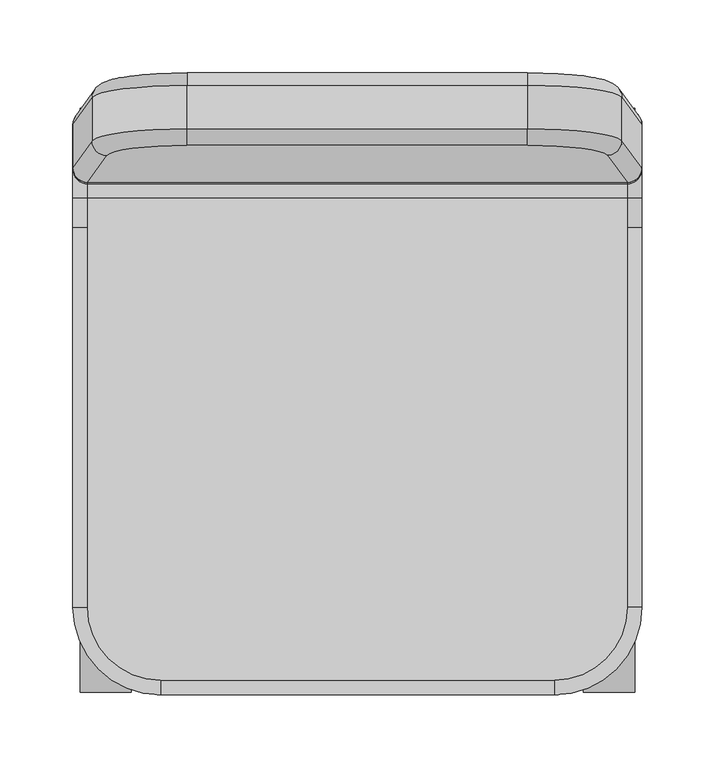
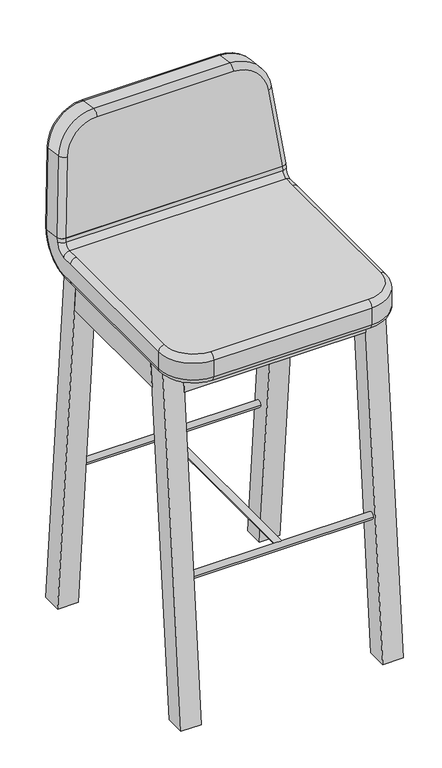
"""IFC4 building model written with IfcOpenShell, lengths in millimetres: furniture geometry, A Slim+back rest_H865-SH663 : A Slim+back rest_H865-SH663."""

from ifc_helpers import new_model, si_unit, point, frame, frame_2d, origin, place, context, project, spatial, polyline, circle_curve, ellipse_curve, trimmed, segment, composite_curve, outline, extrude, faceted_brep, source, transform, mapped, element, save
from ifc_brep_helpers import plane_surface, cylinder_surface, revolved_surface, advanced_brep


def furniture_0df47b9a(model_context):
    return source(origin(), model_context, "Body", "SolidModel", [
        advanced_brep(
        [(-184.9532174, 176.0, 679.0), (184.947486, 176.0, 679.0), (171.3421981, 194.4518922, 810.2920353), (116.593876, 201.3295044, 859.2287885), (-116.7908163, 201.3295044, 859.2287885), (-171.8943974, 194.3814283, 809.7906586), (184.947486, 225.5134034, 672.041345), (-184.9532174, 225.5134034, 672.041345), (-171.8943974, 243.8948318, 802.8320036), (-116.7908163, 250.8429078, 852.2701335), (116.593876, 250.8429078, 852.2701335), (171.3421981, 243.9652957, 803.3333802), (-116.7908163, 212.6239161, 867.7397382), (116.593876, 212.6239161, 867.7397382), (116.593876, 242.3319581, 863.5645452), (-116.7908163, 242.3319581, 863.5645452), (-195.0019784, 185.9026807, 677.608269), (-195.0019784, 215.6107227, 673.433076), (195.0, 215.6107227, 673.433076), (195.0, 185.9026807, 677.608269), (-181.8458731, 204.4210466, 809.3732894), (-181.8458731, 234.1290887, 805.1980964), (181.2899584, 204.496643, 809.9111857), (181.2899584, 234.2046851, 805.7359927)],
        [
            (0, 1),
            (1, 2),
            (2, 3, circle_curve(frame((116.593876, 193.6699976, 804.7285657), z_axis=(0.0, -0.9902680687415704, 0.13917310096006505), x_axis=(0.9947760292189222, 0.014207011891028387, 0.1010881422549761)), 55.0358277)),
            (3, 4),
            (4, 5, circle_curve(frame((-116.7908163, 193.6231736, 804.3953961), z_axis=(0.0, -0.9902680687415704, 0.13917310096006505), x_axis=(0.0, 0.13917310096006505, 0.9902680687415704)), 55.3722716)),
            (5, 0),
            (6, 7),
            (7, 8),
            (8, 9, circle_curve(frame((-116.7908163, 243.1365771, 797.436741), z_axis=(0.0, 0.9902680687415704, -0.13917310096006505), x_axis=(-0.9951475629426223, 0.013693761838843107, 0.09743617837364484)), 55.3722716)),
            (9, 10),
            (10, 11, circle_curve(frame((116.593876, 243.183401, 797.7699107), z_axis=(0.0, 0.9902680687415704, -0.13917310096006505), x_axis=(0.0, 0.13917310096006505, 0.9902680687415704)), 55.0358277)),
            (11, 6),
            (12, 13),
            (13, 14),
            (14, 15),
            (15, 12),
            (0, 16, ellipse_curve(frame((-184.9532174, 185.9026807, 677.608269), z_axis=(0.0, -0.13917310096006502, -0.9902680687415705), x_axis=(-1.0, 0.0, 0.0)), 10.048761, 10.0)),
            (16, 17),
            (17, 7, ellipse_curve(frame((-184.9532174, 215.6107227, 673.433076), z_axis=(0.0, -0.13917310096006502, -0.9902680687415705), x_axis=(1.0, 0.0, 0.0)), 10.048761, 10.0)),
            (6, 18, ellipse_curve(frame((184.947486, 215.6107227, 673.433076), z_axis=(0.0, -0.13917310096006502, -0.9902680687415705), x_axis=(1.0, 0.0, 0.0)), 10.052514, 10.0)),
            (18, 19),
            (19, 1, ellipse_curve(frame((184.947486, 185.9026807, 677.608269), z_axis=(0.0, -0.13917310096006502, -0.9902680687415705), x_axis=(-1.0, 0.0, 0.0)), 10.052514, 10.0)),
            (16, 20),
            (20, 21),
            (21, 17),
            (22, 19),
            (18, 23),
            (23, 22),
            (20, 12, circle_curve(frame((-116.7908163, 203.5258543, 803.0036651), z_axis=(0.0, 0.9902680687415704, -0.13917310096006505), x_axis=(1.0, 0.0, 0.0)), 65.3722716)),
            (15, 21, circle_curve(frame((-116.7908163, 233.2338964, 798.8284721), z_axis=(0.0, -0.9902680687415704, 0.13917310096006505), x_axis=(1.0, 0.0, 0.0)), 65.3722716)),
            (13, 22, circle_curve(frame((116.593876, 203.5726783, 803.3368347), z_axis=(0.0, 0.9902680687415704, -0.13917310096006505), x_axis=(1.0, 0.0, 0.0)), 65.0358277)),
            (23, 14, circle_curve(frame((116.593876, 233.2807203, 799.1616417), z_axis=(0.0, -0.9902680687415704, 0.13917310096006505), x_axis=(1.0, 0.0, 0.0)), 65.0358277)),
            (22, 2, circle_curve(frame((171.3421981, 204.3545729, 808.9003043), z_axis=(0.10208159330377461, -0.13844606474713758, -0.9850949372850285), x_axis=(-0.9947760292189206, -0.014207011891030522, -0.1010881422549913)), 10.0)),
            (13, 3, circle_curve(frame((116.593876, 211.2321851, 857.8370575), z_axis=(1.0, 0.0, 0.0), x_axis=(0.0, -0.13917310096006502, -0.9902680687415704)), 10.0)),
            (12, 4, circle_curve(frame((-116.7908163, 211.2321851, 857.8370575), z_axis=(1.0, 0.0, 0.0), x_axis=(0.0, -0.13917310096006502, -0.9902680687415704)), 10.0)),
            (20, 5, circle_curve(frame((-171.8943974, 204.284109, 808.3989276), z_axis=(0.09839373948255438, 0.13849777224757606, 0.9854628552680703), x_axis=(0.9951475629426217, -0.013693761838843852, -0.09743617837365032)), 10.0)),
            (21, 8, circle_curve(frame((-171.8943974, 233.9921511, 804.2237346), z_axis=(-0.09839373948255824, -0.1384977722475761, -0.9854628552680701), x_axis=(0.9951475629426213, -0.013693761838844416, -0.09743617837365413)), 10.0)),
            (15, 9, circle_curve(frame((-116.7908163, 240.9402271, 853.6618645), z_axis=(-1.0, 0.0, 0.0), x_axis=(0.0, -0.13917310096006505, -0.9902680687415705)), 10.0)),
            (14, 10, circle_curve(frame((116.593876, 240.9402271, 853.6618645), z_axis=(-1.0, 0.0, 0.0), x_axis=(0.0, -0.13917310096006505, -0.9902680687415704)), 10.0)),
            (23, 11, circle_curve(frame((171.3421981, 234.062615, 804.7251112), z_axis=(-0.10208159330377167, 0.13844606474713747, 0.9850949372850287), x_axis=(-0.9947760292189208, -0.014207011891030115, -0.1010881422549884)), 10.0)),
        ],
        [
            plane_surface(frame((-116.7908163, 202.7212354, 869.1314692), z_axis=(0.0, -0.9902680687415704, 0.13917310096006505), x_axis=(-1.0, 0.0, 0.0))),
            plane_surface(frame((-116.7908163, 252.2346388, 862.1728142), z_axis=(0.0, 0.9902680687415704, -0.13917310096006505), x_axis=(1.0, 0.0, 0.0))),
            plane_surface(frame((116.593876, 202.7212354, 869.1314692), z_axis=(0.0, 0.13917310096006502, 0.9902680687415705), x_axis=(0.0, 0.9902680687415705, -0.13917310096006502))),
            plane_surface(frame((-195.0019784, 176.0, 679.0), z_axis=(0.0, -0.13917310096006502, -0.9902680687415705), x_axis=(0.0, 0.9902680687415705, -0.13917310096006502))),
            plane_surface(frame((-181.8458731, 194.518366, 810.7650204), z_axis=(-0.9951475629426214, 0.013693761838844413, 0.09743617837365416), x_axis=(0.0, 0.9902680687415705, -0.13917310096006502))),
            plane_surface(frame((195.0, 176.0, 679.0), z_axis=(0.9947760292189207, 0.01420701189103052, 0.10108814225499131), x_axis=(0.0, 0.9902680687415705, -0.13917310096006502))),
            cylinder_surface(frame((-116.7908163, 243.1365771, 797.436741), z_axis=(0.0, -0.9902680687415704, 0.13917310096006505), x_axis=(1.0, 0.0, 0.0)), 65.3722716),
            cylinder_surface(frame((116.593876, 243.183401, 797.7699107), z_axis=(0.0, -0.9902680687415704, 0.13917310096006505), x_axis=(1.0, 0.0, 0.0)), 65.0358277),
            cylinder_surface(frame((185.0522397, 185.7606106, 676.5973876), z_axis=(-0.10208159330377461, 0.13844606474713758, 0.9850949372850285), x_axis=(-0.9947760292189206, -0.014207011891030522, -0.1010881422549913)), 10.0),
            revolved_surface(trimmed(ellipse_curve(frame((171.3421981, 204.3545729, 808.9003043), z_axis=(0.10208159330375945, -0.1384460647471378, -0.9850949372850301), x_axis=(-0.9947760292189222, -0.014207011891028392, -0.1010881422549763)), 10.0, 10.0), [point((181.2899584, 204.496643, 809.9111857))], [point((171.3421981, 194.4518922, 810.2920353))], True, "CARTESIAN"), (116.593876, 193.6699976, 804.7285657), (0.0, -0.9902680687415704, 0.13917310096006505)),
            cylinder_surface(frame((116.593876, 211.2321851, 857.8370575), z_axis=(-1.0, 0.0, 0.0), x_axis=(0.0, -0.13917310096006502, -0.9902680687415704)), 10.0),
            revolved_surface(trimmed(ellipse_curve(frame((-116.7908163, 211.2321851, 857.8370575), z_axis=(1.0, 0.0, 0.0), x_axis=(0.0, -0.13917310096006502, -0.9902680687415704)), 10.0, 10.0), [point((-116.7908163, 212.6239161, 867.7397382))], [point((-116.7908163, 201.3295044, 859.2287885))], True, "CARTESIAN"), (-116.7908163, 193.6231736, 804.3953961), (0.0, -0.9902680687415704, 0.13917310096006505)),
            cylinder_surface(frame((-171.8943974, 204.284109, 808.3989276), z_axis=(-0.09839373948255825, -0.138497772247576, -0.9854628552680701), x_axis=(0.9951475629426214, -0.013693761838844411, -0.09743617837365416)), 10.0),
            cylinder_surface(frame((-185.0505027, 215.4737851, 672.4587142), z_axis=(0.09839373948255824, 0.1384977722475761, 0.9854628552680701), x_axis=(0.9951475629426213, -0.013693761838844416, -0.09743617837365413)), 10.0),
            revolved_surface(trimmed(ellipse_curve(frame((-171.8943974, 233.9921511, 804.2237346), z_axis=(-0.09839373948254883, -0.13849777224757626, -0.9854628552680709), x_axis=(0.9951475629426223, -0.01369376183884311, -0.09743617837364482)), 10.0, 10.0), [point((-181.8458731, 234.1290887, 805.1980964))], [point((-171.8943974, 243.8948318, 802.8320036))], True, "CARTESIAN"), (-116.7908163, 243.1365771, 797.436741), (0.0, 0.9902680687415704, -0.13917310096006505)),
            cylinder_surface(frame((-116.7908163, 240.9402271, 853.6618645), z_axis=(1.0, 0.0, 0.0), x_axis=(0.0, -0.13917310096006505, -0.9902680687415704)), 10.0),
            revolved_surface(trimmed(ellipse_curve(frame((116.593876, 240.9402271, 853.6618645), z_axis=(-1.0, 0.0, 0.0), x_axis=(0.0, -0.13917310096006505, -0.9902680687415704)), 10.0, 10.0), [point((116.593876, 242.3319581, 863.5645452))], [point((116.593876, 250.8429078, 852.2701335))], True, "CARTESIAN"), (116.593876, 243.183401, 797.7699107), (0.0, 0.9902680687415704, -0.13917310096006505)),
            cylinder_surface(frame((171.3421981, 234.062615, 804.7251112), z_axis=(0.1020815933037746, -0.13844606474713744, -0.9850949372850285), x_axis=(-0.9947760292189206, -0.014207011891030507, -0.1010881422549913)), 10.0),
        ],
        [
            (0, [[1, 2, 3, 4, 5, 6]]),
            (1, [[7, 8, 9, 10, 11, 12]]),
            (2, [[13, 14, 15, 16]]),
            (3, [[-1, 17, 18, 19, -7, 20, 21, 22]]),
            (4, [[23, 24, 25, -18]]),
            (5, [[26, -21, 27, 28]]),
            (6, [[29, -16, 30, -24]]),
            (7, [[31, -28, 32, -14]]),
            (8, [[33, -2, -22, -26]]),
            (9, [[-33, -31, 34, -3]]),
            (10, [[-34, -13, 35, -4]]),
            (11, [[-35, -29, 36, -5]]),
            (12, [[-36, -23, -17, -6]]),
            (13, [[37, -8, -19, -25]]),
            (14, [[-37, -30, 38, -9]]),
            (15, [[-38, -15, 39, -10]]),
            (16, [[-39, -32, 40, -11]]),
            (17, [[-40, -27, -20, -12]]),
        ],
    ),
        faceted_brep([(190.0, 141.8861338, 571.0), (190.0, 138.2, 613.0), (190.0, -84.2, 613.0), (190.0, -87.8861338, 571.0), (155.0, 141.8861338, 571.0), (155.0, -87.8861338, 571.0), (155.0, -84.2, 613.0), (155.0, 138.2, 613.0), (155.0, 121.0, 585.5), (155.0, 121.0, 598.5), (155.0, -66.0, 598.5), (155.0, -66.0, 585.5), (165.0, 121.0, 585.5), (165.0, 121.0, 598.5), (165.0, -66.0, 598.5), (165.0, -66.0, 585.5)], [[[0, 1, 2, 3]], [[4, 5, 6, 7], [8, 9, 10, 11]], [[1, 0, 4, 7]], [[2, 1, 7, 6]], [[3, 2, 6, 5]], [[0, 3, 5, 4]], [[12, 13, 9, 8]], [[14, 15, 11, 10]], [[15, 12, 8, 11]], [[13, 14, 10, 9]], [[13, 12, 15, 14]]]),
        faceted_brep([(155.0, 176.8861338, 571.0), (155.0, 173.2, 613.0), (155.0, 138.2, 613.0), (155.0, 141.8861338, 571.0), (-155.0, 176.8861338, 571.0), (-155.0, 141.8861338, 571.0), (-155.0, 138.2, 613.0), (-155.0, 173.2, 613.0), (135.0, 140.61354, 585.5), (-135.0, 140.61354, 585.5), (-135.0, 139.4725938, 598.5), (135.0, 139.4725938, 598.5), (-135.0, 151.1918818, 585.5), (135.0, 151.1918818, 585.5), (135.0, 151.1918818, 598.5), (-135.0, 151.1918818, 598.5)], [[[0, 1, 2, 3]], [[4, 5, 6, 7]], [[0, 3, 5, 4]], [[3, 2, 6, 5], [8, 9, 10, 11]], [[2, 1, 7, 6]], [[1, 0, 4, 7]], [[12, 13, 14, 15]], [[13, 12, 9, 8]], [[14, 13, 8, 11]], [[15, 14, 11, 10]], [[12, 15, 10, 9]]]),
        faceted_brep([(-190.0, 141.8861338, 571.0), (-190.0, -87.8861338, 571.0), (-190.0, -84.2, 613.0), (-190.0, 138.2, 613.0), (-155.0, 141.8861338, 571.0), (-155.0, 138.2, 613.0), (-155.0, -84.2, 613.0), (-155.0, -87.8861338, 571.0), (-155.0, 121.0, 598.5), (-155.0, 121.0, 585.5), (-155.0, -66.0, 585.5), (-155.0, -66.0, 598.5), (-165.0, 121.0, 598.5), (-165.0, 121.0, 585.5), (-165.0, -66.0, 585.5), (-165.0, -66.0, 598.5)], [[[0, 1, 2, 3]], [[4, 5, 6, 7], [8, 9, 10, 11]], [[0, 3, 5, 4]], [[3, 2, 6, 5]], [[2, 1, 7, 6]], [[1, 0, 4, 7]], [[12, 13, 9, 8]], [[14, 15, 11, 10]], [[13, 14, 10, 9]], [[15, 12, 8, 11]], [[13, 12, 15, 14]]]),
        faceted_brep([(155.0, -122.8741463, 571.0), (155.0, -87.8741463, 571.0), (155.0, -84.2, 613.0), (155.0, -119.2, 613.0), (-155.0, -122.8741463, 571.0), (-155.0, -119.2, 613.0), (-155.0, -84.2, 613.0), (-155.0, -87.8741463, 571.0), (-135.0, -86.6056911, 585.5), (135.0, -86.6056911, 585.5), (135.0, -85.4684553, 598.5), (-135.0, -85.4684553, 598.5), (-135.0, -96.8081182, 585.5), (-135.0, -96.8081182, 598.5), (135.0, -96.8081182, 598.5), (135.0, -96.8081182, 585.5)], [[[0, 1, 2, 3]], [[4, 5, 6, 7]], [[1, 0, 4, 7]], [[2, 1, 7, 6], [8, 9, 10, 11]], [[3, 2, 6, 5]], [[0, 3, 5, 4]], [[12, 13, 14, 15]], [[12, 15, 9, 8]], [[15, 14, 10, 9]], [[14, 13, 11, 10]], [[13, 12, 8, 11]]]),
        extrude(outline(composite_curve([segment(trimmed(circle_curve(frame_2d((-139.8410377, 250.0)), 6.0), [point((-133.8410377, 250.0))], [point((-145.8410377, 250.0))], False, "CARTESIAN"), True, "CONTINUOUS"), segment(trimmed(circle_curve(frame_2d((-139.8410377, 250.0)), 6.0), [point((-145.8410377, 250.0))], [point((-133.8410377, 250.0))], False, "CARTESIAN"), True, "CONTINUOUS")], self_intersect=False)), frame((-155.0, 0.0, 0.0), z_axis=(1.0, 0.0, 0.0), x_axis=(0.0, 1.0, 0.0)), (0.0, 0.0, 1.0), 310.0),
        extrude(outline(composite_curve([segment(trimmed(circle_curve(frame_2d((193.8410377, 250.0)), 6.0), [point((187.8410377, 250.0))], [point((199.8410377, 250.0))], False, "CARTESIAN"), True, "CONTINUOUS"), segment(trimmed(circle_curve(frame_2d((193.8410377, 250.0)), 6.0), [point((199.8410377, 250.0))], [point((187.8410377, 250.0))], False, "CARTESIAN"), True, "CONTINUOUS")], self_intersect=False)), frame((-155.0, 0.0, 0.0), z_axis=(1.0, 0.0, 0.0), x_axis=(0.0, 1.0, 0.0)), (0.0, 0.0, 1.0), 310.0),
        extrude(outline(composite_curve([segment(trimmed(circle_curve(frame_2d((250.0, 0.0)), 6.0), [point((250.0, -6.0))], [point((250.0, 6.0))], False, "CARTESIAN"), True, "CONTINUOUS"), segment(trimmed(circle_curve(frame_2d((250.0, 0.0)), 6.0), [point((250.0, 6.0))], [point((250.0, -6.0))], False, "CARTESIAN"), True, "CONTINUOUS")], self_intersect=False)), frame((0.0, -138.8, 0.0), z_axis=(0.0, 1.0, 0.0), x_axis=(0.0, 0.0, 1.0)), (0.0, 0.0, 1.0), 332.0),
        extrude(outline(polyline([(-138.0, 0.0), (-173.0, 0.0), (-119.2, 613.0), (-84.2, 613.0), (-138.0, 0.0)])), frame((-190.0, 0.0, 0.0), z_axis=(1.0, 0.0, 0.0), x_axis=(0.0, 1.0, 0.0)), (0.0, 0.0, 1.0), 35.0),
        extrude(outline(polyline([(227.0, 0.0), (192.0, 0.0), (138.2, 613.0), (173.2, 613.0), (227.0, 0.0)])), frame((-190.0, 0.0, 0.0), z_axis=(1.0, 0.0, 0.0), x_axis=(0.0, 1.0, 0.0)), (0.0, 0.0, 1.0), 35.0),
        extrude(outline(polyline([(227.0, 0.0), (192.0, 0.0), (138.2, 613.0), (173.2, 613.0), (227.0, 0.0)])), frame((155.0, 0.0, 0.0), z_axis=(1.0, 0.0, 0.0), x_axis=(0.0, 1.0, 0.0)), (0.0, 0.0, 1.0), 35.0),
        extrude(outline(polyline([(-138.0, 0.0), (-173.0, 0.0), (-119.2, 613.0), (-84.2, 613.0), (-138.0, 0.0)])), frame((155.0, 0.0, 0.0), z_axis=(1.0, 0.0, 0.0), x_axis=(0.0, 1.0, 0.0)), (0.0, 0.0, 1.0), 35.0),
        advanced_brep(
        [(-185.0, 145.0, 663.0), (-185.0, -115.0, 663.0), (-135.0, -165.0, 663.0), (135.0, -165.0, 663.0), (185.0, -115.0, 663.0), (185.0, 145.0, 663.0), (185.0, 165.0, 663.0), (-185.0, 165.0, 663.0), (185.0, 145.0, 613.0), (185.0, -115.0, 613.0), (135.0, -165.0, 613.0), (-135.0, -165.0, 613.0), (-185.0, -115.0, 613.0), (-185.0, 145.0, 613.0), (-185.0, 165.0, 613.0), (185.0, 165.0, 613.0), (-195.0, -115.0, 653.0), (-195.0, 145.0, 653.0), (-195.0, 165.0, 653.0), (-195.0, 184.8053614, 670.216538), (-195.0, 185.849579, 677.6465328), (-195.0, 215.5576211, 673.4713398), (-195.0, 214.5134034, 666.041345), (-195.0, 165.0, 623.0), (-195.0, 145.0, 623.0), (-195.0, -115.0, 623.0), (-135.0, -175.0, 653.0), (-135.0, -175.0, 623.0), (135.0, -175.0, 653.0), (135.0, -175.0, 623.0), (195.0, -115.0, 653.0), (195.0, -115.0, 623.0), (195.0, 145.0, 653.0), (195.0, 145.0, 623.0), (195.0, 165.0, 623.0), (195.0, 214.5134034, 666.041345), (195.0, 215.5576211, 673.4713398), (195.0, 185.849579, 677.6465328), (195.0, 184.8053614, 670.216538), (195.0, 165.0, 653.0), (-185.0, 175.9468984, 679.0382638), (185.0, 175.9468984, 679.0382638), (185.0, 225.4603018, 672.0796088), (-185.0, 225.4603018, 672.0796088), (185.0, 174.9026807, 671.608269), (-185.0, 174.9026807, 671.608269), (-185.0, 224.4160841, 664.6496139), (185.0, 224.4160841, 664.6496139)],
        [
            (0, 1),
            (1, 2, circle_curve(frame((-135.0, -115.0, 663.0), z_axis=(0.0, 0.0, 1.0), x_axis=(-1.0, 0.0, 0.0)), 50.0)),
            (2, 3),
            (3, 4, circle_curve(frame((135.0, -115.0, 663.0), z_axis=(0.0, 0.0, 1.0), x_axis=(0.0, -1.0, 0.0)), 50.0)),
            (4, 5),
            (5, 6),
            (6, 7),
            (7, 0),
            (8, 9),
            (9, 10, circle_curve(frame((135.0, -115.0, 613.0), z_axis=(0.0, 0.0, -1.0), x_axis=(1.0, 0.0, 0.0)), 50.0)),
            (10, 11),
            (11, 12, circle_curve(frame((-135.0, -115.0, 613.0), z_axis=(0.0, 0.0, -1.0), x_axis=(0.0, -1.0, 0.0)), 50.0)),
            (12, 13),
            (13, 14),
            (14, 15),
            (15, 8),
            (16, 17),
            (17, 18),
            (18, 19, circle_curve(frame((-195.0, 165.0, 673.0), z_axis=(1.0, 0.0, 0.0), x_axis=(0.0, 0.0, -1.0)), 20.0)),
            (19, 20),
            (20, 21),
            (21, 22),
            (22, 23, circle_curve(frame((-195.0, 165.0, 673.0), z_axis=(-1.0, 0.0, 0.0), x_axis=(0.0, 0.0, -1.0)), 50.0)),
            (23, 24),
            (24, 25),
            (25, 16),
            (26, 16, circle_curve(frame((-135.0, -115.0, 653.0), z_axis=(0.0, 0.0, -1.0), x_axis=(1.0, 0.0, 0.0)), 60.0)),
            (25, 27, circle_curve(frame((-135.0, -115.0, 623.0), z_axis=(0.0, 0.0, 1.0), x_axis=(1.0, 0.0, 0.0)), 60.0)),
            (27, 26),
            (28, 26),
            (27, 29),
            (29, 28),
            (30, 28, circle_curve(frame((135.0, -115.0, 653.0), z_axis=(0.0, 0.0, -1.0), x_axis=(1.0, 0.0, 0.0)), 60.0)),
            (29, 31, circle_curve(frame((135.0, -115.0, 623.0), z_axis=(0.0, 0.0, 1.0), x_axis=(1.0, 0.0, 0.0)), 60.0)),
            (31, 30),
            (32, 30),
            (31, 33),
            (33, 34),
            (34, 35, circle_curve(frame((195.0, 165.0, 673.0), z_axis=(1.0, 0.0, 0.0), x_axis=(0.0, 0.0, -1.0)), 50.0)),
            (35, 36),
            (36, 37),
            (37, 38),
            (38, 39, circle_curve(frame((195.0, 165.0, 673.0), z_axis=(-1.0, 0.0, 0.0), x_axis=(0.0, 0.0, -1.0)), 20.0)),
            (39, 32),
            (16, 1, circle_curve(frame((-185.0, -115.0, 653.0), z_axis=(0.0, 1.0, 0.0), x_axis=(1.0, 0.0, 0.0)), 10.0)),
            (0, 17, circle_curve(frame((-185.0, 145.0, 653.0), z_axis=(0.0, -1.0, 0.0), x_axis=(1.0, 0.0, 0.0)), 10.0)),
            (26, 2, circle_curve(frame((-135.0, -165.0, 653.0), z_axis=(-1.0, 0.0, 0.0), x_axis=(0.0, 1.0, 0.0)), 10.0)),
            (28, 3, circle_curve(frame((135.0, -165.0, 653.0), z_axis=(-1.0, 0.0, 0.0), x_axis=(0.0, 1.0, 0.0)), 10.0)),
            (30, 4, circle_curve(frame((185.0, -115.0, 653.0), z_axis=(0.0, -1.0, 0.0), x_axis=(-1.0, 0.0, 0.0)), 10.0)),
            (32, 5, circle_curve(frame((185.0, 145.0, 653.0), z_axis=(0.0, -1.0, 0.0), x_axis=(-1.0, 0.0, 0.0)), 10.0)),
            (31, 9, circle_curve(frame((185.0, -115.0, 623.0), z_axis=(0.0, 1.0, 0.0), x_axis=(-1.0, 0.0, 0.0)), 10.0)),
            (8, 33, circle_curve(frame((185.0, 145.0, 623.0), z_axis=(0.0, -1.0, 0.0), x_axis=(-1.0, 0.0, 0.0)), 10.0)),
            (29, 10, circle_curve(frame((135.0, -165.0, 623.0), z_axis=(1.0, 0.0, 0.0), x_axis=(0.0, 1.0, 0.0)), 10.0)),
            (27, 11, circle_curve(frame((-135.0, -165.0, 623.0), z_axis=(1.0, 0.0, 0.0), x_axis=(0.0, 1.0, 0.0)), 10.0)),
            (25, 12, circle_curve(frame((-185.0, -115.0, 623.0), z_axis=(0.0, -1.0, 0.0), x_axis=(1.0, 0.0, 0.0)), 10.0)),
            (24, 13, circle_curve(frame((-185.0, 145.0, 623.0), z_axis=(0.0, -1.0, 0.0), x_axis=(1.0, 0.0, 0.0)), 10.0)),
            (20, 40, circle_curve(frame((-185.0, 185.849579, 677.6465328), z_axis=(0.0, 0.13917310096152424, 0.9902680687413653), x_axis=(0.0, -0.9902680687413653, 0.13917310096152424)), 10.0)),
            (40, 41),
            (41, 37, circle_curve(frame((185.0, 185.849579, 677.6465328), z_axis=(0.0, 0.13917310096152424, 0.9902680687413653), x_axis=(0.0, -0.9902680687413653, 0.13917310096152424)), 10.0)),
            (36, 42, circle_curve(frame((185.0, 215.5576211, 673.4713398), z_axis=(0.0, 0.13917310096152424, 0.9902680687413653), x_axis=(0.0, -0.9902680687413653, 0.13917310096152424)), 10.0)),
            (42, 43),
            (43, 21, circle_curve(frame((-185.0, 215.5576211, 673.4713398), z_axis=(0.0, 0.13917310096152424, 0.9902680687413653), x_axis=(0.0, -0.9902680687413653, 0.13917310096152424)), 10.0)),
            (7, 18, circle_curve(frame((-185.0, 165.0, 653.0), z_axis=(0.0, -1.0, 0.0), x_axis=(0.0, 0.0, 1.0)), 10.0)),
            (23, 14, circle_curve(frame((-185.0, 165.0, 623.0), z_axis=(0.0, -1.0, 0.0), x_axis=(0.0, 0.0, 1.0)), 10.0)),
            (15, 34, circle_curve(frame((185.0, 165.0, 623.0), z_axis=(0.0, -1.0, 0.0), x_axis=(0.0, 0.0, 1.0)), 10.0)),
            (39, 6, circle_curve(frame((185.0, 165.0, 653.0), z_axis=(0.0, -1.0, 0.0), x_axis=(0.0, 0.0, 1.0)), 10.0)),
            (6, 44, circle_curve(frame((185.0, 165.0, 673.0), z_axis=(1.0, 0.0, 0.0), x_axis=(0.0, 0.0, -1.0)), 10.0)),
            (44, 45),
            (45, 7, circle_curve(frame((-185.0, 165.0, 673.0), z_axis=(-1.0, 0.0, 0.0), x_axis=(0.0, 0.0, -1.0)), 10.0)),
            (45, 19, circle_curve(frame((-185.0, 184.8053614, 670.216538), z_axis=(0.0, -0.13917310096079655, -0.9902680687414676), x_axis=(0.0, -0.9902680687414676, 0.13917310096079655)), 10.0)),
            (22, 46, circle_curve(frame((-185.0, 214.5134034, 666.041345), z_axis=(0.0, -0.13917310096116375, -0.9902680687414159), x_axis=(0.0, -0.9902680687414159, 0.13917310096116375)), 10.0)),
            (46, 14, circle_curve(frame((-185.0, 165.0, 673.0), z_axis=(-1.0, 0.0, 0.0), x_axis=(0.0, 0.0, -1.0)), 60.0)),
            (46, 47),
            (47, 15, circle_curve(frame((185.0, 165.0, 673.0), z_axis=(-1.0, 0.0, 0.0), x_axis=(0.0, 0.0, -1.0)), 60.0)),
            (47, 35, circle_curve(frame((185.0, 214.5134034, 666.041345), z_axis=(0.0, -0.13917310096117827, -0.9902680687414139), x_axis=(0.0, -0.9902680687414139, 0.13917310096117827)), 10.0)),
            (38, 44, circle_curve(frame((185.0, 184.8053614, 670.216538), z_axis=(0.0, -0.13917310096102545, -0.9902680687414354), x_axis=(0.0, -0.9902680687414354, 0.13917310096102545)), 10.0)),
            (40, 45),
            (44, 41),
            (43, 46),
            (42, 47),
        ],
        [
            plane_surface(frame((-195.0, 145.0, 663.0), z_axis=(0.0, 0.0, 1.0), x_axis=(-1.0, 0.0, 0.0))),
            plane_surface(frame((-195.0, 145.0, 613.0), z_axis=(0.0, 0.0, -1.0), x_axis=(1.0, 0.0, 0.0))),
            plane_surface(frame((-195.0, 145.0, 663.0), z_axis=(-1.0, 0.0, 0.0), x_axis=(0.0, 0.0, -1.0))),
            cylinder_surface(frame((-135.0, -115.0, 613.0), z_axis=(0.0, 0.0, 1.0), x_axis=(1.0, 0.0, 0.0)), 60.0),
            plane_surface(frame((-135.0, -175.0, 663.0), z_axis=(0.0, -1.0, 0.0), x_axis=(0.0, 0.0, -1.0))),
            cylinder_surface(frame((135.0, -115.0, 613.0), z_axis=(0.0, 0.0, 1.0), x_axis=(1.0, 0.0, 0.0)), 60.0),
            plane_surface(frame((195.0, -115.0, 663.0), z_axis=(1.0, 0.0, 0.0), x_axis=(0.0, 0.0, -1.0))),
            cylinder_surface(frame((-185.0, 145.0, 653.0), z_axis=(0.0, -1.0, 0.0), x_axis=(1.0, 0.0, 0.0)), 10.0),
            revolved_surface(trimmed(ellipse_curve(frame((-185.0, -115.0, 653.0), z_axis=(0.0, 1.0, 0.0), x_axis=(1.0, 0.0, 0.0)), 10.0, 10.0), [point((-195.0, -115.0, 653.0))], [point((-185.0, -115.0, 663.0))], True, "CARTESIAN"), (-135.0, -115.0, 663.0), (0.0, 0.0, 1.0)),
            cylinder_surface(frame((-135.0, -165.0, 653.0), z_axis=(1.0, 0.0, 0.0), x_axis=(0.0, 1.0, 0.0)), 10.0),
            revolved_surface(trimmed(ellipse_curve(frame((135.0, -165.0, 653.0), z_axis=(-1.0, 0.0, 0.0), x_axis=(0.0, 1.0, 0.0)), 10.0, 10.0), [point((135.0, -175.0, 653.0))], [point((135.0, -165.0, 663.0))], True, "CARTESIAN"), (135.0, -115.0, 663.0), (0.0, 0.0, 1.0)),
            cylinder_surface(frame((185.0, -115.0, 653.0), z_axis=(0.0, 1.0, 0.0), x_axis=(-1.0, 0.0, 0.0)), 10.0),
            cylinder_surface(frame((185.0, 145.0, 623.0), z_axis=(0.0, -1.0, 0.0), x_axis=(-1.0, 0.0, 0.0)), 10.0),
            revolved_surface(trimmed(ellipse_curve(frame((185.0, -115.0, 623.0), z_axis=(0.0, 1.0, 0.0), x_axis=(-1.0, 0.0, 0.0)), 10.0, 10.0), [point((195.0, -115.0, 623.0))], [point((185.0, -115.0, 613.0))], True, "CARTESIAN"), (135.0, -115.0, 613.0), (0.0, 0.0, -1.0)),
            cylinder_surface(frame((135.0, -165.0, 623.0), z_axis=(-1.0, 0.0, 0.0), x_axis=(0.0, 1.0, 0.0)), 10.0),
            revolved_surface(trimmed(ellipse_curve(frame((-135.0, -165.0, 623.0), z_axis=(1.0, 0.0, 0.0), x_axis=(0.0, 1.0, 0.0)), 10.0, 10.0), [point((-135.0, -175.0, 623.0))], [point((-135.0, -165.0, 613.0))], True, "CARTESIAN"), (-135.0, -115.0, 613.0), (0.0, 0.0, -1.0)),
            cylinder_surface(frame((-185.0, -115.0, 623.0), z_axis=(0.0, 1.0, 0.0), x_axis=(1.0, 0.0, 0.0)), 10.0),
            plane_surface(frame((0.0, 175.9468984, 679.0382638), z_axis=(0.0, 0.13917310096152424, 0.9902680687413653), x_axis=(1.0, 0.0, 0.0))),
            cylinder_surface(frame((-185.0, 145.0, 653.0), z_axis=(0.0, -1.0, 0.0), x_axis=(0.0, 0.0, 1.0)), 10.0),
            cylinder_surface(frame((-185.0, 145.0, 623.0), z_axis=(0.0, -1.0, 0.0), x_axis=(0.0, 0.0, 1.0)), 10.0),
            cylinder_surface(frame((185.0, 145.0, 623.0), z_axis=(0.0, -1.0, 0.0), x_axis=(0.0, 0.0, 1.0)), 10.0),
            cylinder_surface(frame((185.0, 145.0, 653.0), z_axis=(0.0, -1.0, 0.0), x_axis=(0.0, 0.0, 1.0)), 10.0),
            revolved_surface(polyline([(185.0, 165.0, 663.0), (-185.0, 165.0, 663.0)]), (0.0, 165.0, 673.0), (1.0, 0.0, 0.0)),
            revolved_surface(trimmed(ellipse_curve(frame((-185.0, 165.0, 653.0), z_axis=(0.0, -1.0, 0.0), x_axis=(0.0, 0.0, 1.0)), 10.0, 10.0), [point((-185.0, 165.0, 663.0))], [point((-195.0, 165.0, 653.0))], True, "CARTESIAN"), (0.0, 165.0, 673.0), (1.0, 0.0, 0.0)),
            revolved_surface(trimmed(ellipse_curve(frame((-185.0, 165.0, 623.0), z_axis=(0.0, -1.0, 0.0), x_axis=(0.0, 0.0, 1.0)), 10.0, 10.0), [point((-195.0, 165.0, 623.0))], [point((-185.0, 165.0, 613.0))], True, "CARTESIAN"), (0.0, 165.0, 673.0), (1.0, 0.0, 0.0)),
            cylinder_surface(frame((0.0, 165.0, 673.0), z_axis=(1.0, 0.0, 0.0), x_axis=(0.0, 0.0, -1.0)), 60.0),
            revolved_surface(trimmed(ellipse_curve(frame((185.0, 165.0, 623.0), z_axis=(0.0, -1.0, 0.0), x_axis=(0.0, 0.0, 1.0)), 10.0, 10.0), [point((185.0, 165.0, 613.0))], [point((195.0, 165.0, 623.0))], True, "CARTESIAN"), (0.0, 165.0, 673.0), (1.0, 0.0, 0.0)),
            revolved_surface(trimmed(ellipse_curve(frame((185.0, 165.0, 653.0), z_axis=(0.0, -1.0, 0.0), x_axis=(0.0, 0.0, 1.0)), 10.0, 10.0), [point((195.0, 165.0, 653.0))], [point((185.0, 165.0, 663.0))], True, "CARTESIAN"), (0.0, 165.0, 673.0), (1.0, 0.0, 0.0)),
            plane_surface(frame((185.0, 174.9026807, 671.608269), z_axis=(0.0, -0.9902680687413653, 0.13917310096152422), x_axis=(0.0, 0.13917310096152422, 0.9902680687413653))),
            cylinder_surface(frame((-185.0, 184.8053614, 670.216538), z_axis=(0.0, -0.13917310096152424, -0.9902680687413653), x_axis=(0.0, -0.9902680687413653, 0.13917310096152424)), 10.0),
            cylinder_surface(frame((-185.0, 214.5134034, 666.041345), z_axis=(0.0, -0.13917310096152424, -0.9902680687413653), x_axis=(0.0, -0.9902680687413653, 0.13917310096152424)), 10.0),
            plane_surface(frame((-185.0, 224.4160841, 664.6496139), z_axis=(0.0, 0.9902680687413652, -0.1391731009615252), x_axis=(0.0, 0.1391731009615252, 0.9902680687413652))),
            cylinder_surface(frame((185.0, 214.5134034, 666.041345), z_axis=(0.0, -0.13917310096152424, -0.9902680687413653), x_axis=(0.0, -0.9902680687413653, 0.13917310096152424)), 10.0),
            cylinder_surface(frame((185.0, 184.8053614, 670.216538), z_axis=(0.0, -0.13917310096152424, -0.9902680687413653), x_axis=(0.0, -0.9902680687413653, 0.13917310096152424)), 10.0),
        ],
        [
            (0, [[1, 2, 3, 4, 5, 6, 7, 8]]),
            (1, [[9, 10, 11, 12, 13, 14, 15, 16]]),
            (2, [[17, 18, 19, 20, 21, 22, 23, 24, 25, 26]]),
            (3, [[27, -26, 28, 29]]),
            (4, [[30, -29, 31, 32]]),
            (5, [[33, -32, 34, 35]]),
            (6, [[36, -35, 37, 38, 39, 40, 41, 42, 43, 44]]),
            (7, [[45, -1, 46, -17]]),
            (8, [[-45, -27, 47, -2]]),
            (9, [[-47, -30, 48, -3]]),
            (10, [[-48, -33, 49, -4]]),
            (11, [[-49, -36, 50, -5]]),
            (12, [[51, -9, 52, -37]]),
            (13, [[-51, -34, 53, -10]]),
            (14, [[-53, -31, 54, -11]]),
            (15, [[-54, -28, 55, -12]]),
            (16, [[-55, -25, 56, -13]]),
            (17, [[-21, 57, 58, 59, -41, 60, 61, 62]]),
            (18, [[-8, 63, -18, -46]]),
            (19, [[-24, 64, -14, -56]]),
            (20, [[-16, 65, -38, -52]]),
            (21, [[-6, -50, -44, 66]]),
            (22, [[-7, 67, 68, 69]]),
            (23, [[-19, -63, -69, 70]]),
            (24, [[-23, 71, 72, -64]]),
            (25, [[-15, -72, 73, 74]]),
            (26, [[-39, -65, -74, 75]]),
            (27, [[-43, 76, -67, -66]]),
            (28, [[-58, 77, -68, 78]]),
            (29, [[-20, -70, -77, -57]]),
            (30, [[-22, -62, 79, -71]]),
            (31, [[-61, 80, -73, -79]]),
            (32, [[-40, -75, -80, -60]]),
            (33, [[-42, -59, -78, -76]]),
        ],
    ),
    ])


if __name__ == "__main__":
    model = new_model("IFC4")
    model_context = context("Model", 3, world=origin())
    ifc_project = project(units=[si_unit("LENGTHUNIT", "METRE", prefix="MILLI")], contexts=[model_context])
    site = spatial("IfcSite", under=ifc_project)
    building = spatial("IfcBuilding", under=site)
    placement = place(None, origin())
    furniture_shape = furniture_0df47b9a(model_context)
    element("IfcFurniture", 1, ObjectType="A Slim+back rest_H865-SH663 : A Slim+back rest_H865-SH663", at=placement, inside=building, context=model_context, shape_type="MappedRepresentation", body=[
        mapped(furniture_shape, transform((0.0, 0.0, 0.0), x_axis=(1.0, 0.0, 0.0), y_axis=(0.0, 1.0, 0.0), z_axis=(0.0, 0.0, 1.0))),
    ])
    save(model, "model.ifc")
